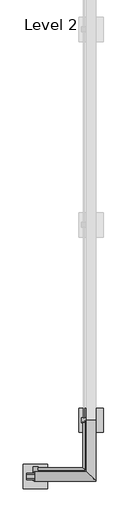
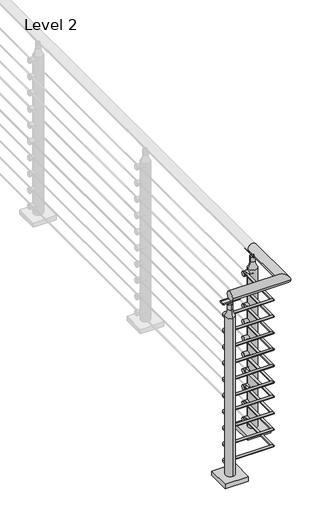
# One storey, part 4 of 21: 1 railing.
"""IFC4 building model written with IfcOpenShell, lengths in millimetres."""

from ifc_helpers import new_model, si_unit, point, frame, frame_2d, origin, place, context, project, spatial, polyline, circle_curve, ellipse_curve, trimmed, segment, composite_curve, outline, extrude, element, save
from ifc_brep_helpers import plane_surface, cylinder_surface, revolved_surface, advanced_brep

model = new_model("IFC4")

# Units and contexts
model_context = context("Model", 3, world=origin())
ifc_project = project(units=[si_unit("LENGTHUNIT", "METRE", prefix="MILLI")], contexts=[model_context])

# Site, building, storey
site = spatial("IfcSite", under=ifc_project)
building = spatial("IfcBuilding", under=site)
storey = spatial("IfcBuildingStorey", under=building, Name="Level 2", Elevation=3048.0)

# Railing
placement = place(None, origin())
element("IfcRailing", 1, ObjectType="VIVA-CIRCA-Multiline-Cable-Floor Mount-Corner", at=placement, inside=storey, context=model_context, shape_type="SolidModel", body=[
    advanced_brep(
    [(20523.0295521, -68730.3034511, 4102.1), (20523.0295521, -68679.5034511, 4102.1), (20840.5295521, -68730.3034511, 4102.1), (20789.7295521, -68679.5034511, 4102.1), (20840.5295521, -68412.8034511, 4102.1), (20789.7295521, -68412.8034511, 4102.1)],
    [
        (0, 1, circle_curve(frame((20523.0295521, -68704.9034511, 4102.1), z_axis=(-1.0, 0.0, 0.0), x_axis=(0.0, 1.0, 0.0)), 25.4)),
        (1, 0, circle_curve(frame((20523.0295521, -68704.9034511, 4102.1), z_axis=(-1.0, 0.0, 0.0), x_axis=(0.0, 1.0, 0.0)), 25.4)),
        (0, 2),
        (2, 3, ellipse_curve(frame((20815.1295521, -68704.9034511, 4102.1), z_axis=(-0.7071067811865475, -0.7071067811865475, 0.0), x_axis=(-0.7071067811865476, 0.7071067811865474, 0.0)), 35.9210245, 25.4)),
        (3, 1),
        (3, 2, ellipse_curve(frame((20815.1295521, -68704.9034511, 4102.1), z_axis=(-0.7071067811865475, -0.7071067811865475, 0.0), x_axis=(-0.7071067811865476, 0.7071067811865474, 0.0)), 35.9210245, 25.4)),
        (4, 5, circle_curve(frame((20815.1295521, -68412.8034511, 4102.1), z_axis=(0.0, 1.0, 0.0), x_axis=(-1.0, 0.0, 0.0)), 25.4)),
        (5, 4, circle_curve(frame((20815.1295521, -68412.8034511, 4102.1), z_axis=(0.0, 1.0, 0.0), x_axis=(-1.0, 0.0, 0.0)), 25.4)),
        (2, 4),
        (5, 3),
    ],
    [
        plane_surface(frame((20523.0295521, -68704.9034511, 4127.5), z_axis=(-1.0, 0.0, 0.0), x_axis=(0.0, 1.0, 0.0))),
        cylinder_surface(frame((20523.0295521, -68704.9034511, 4102.1), z_axis=(-1.0, 0.0, 0.0), x_axis=(0.0, 1.0, 0.0)), 25.4),
        plane_surface(frame((20815.1295521, -68412.8034511, 4127.5), z_axis=(0.0, 1.0, 0.0), x_axis=(0.0, 0.0, 1.0))),
        cylinder_surface(frame((20815.1295521, -68704.9034511, 4102.1), z_axis=(0.0, -1.0, 0.0), x_axis=(-1.0, 0.0, 0.0)), 25.4),
    ],
    [
        (0, [[1, 2]]),
        (1, [[-1, 3, 4, 5]]),
        (1, [[-2, -5, 6, -3]]),
        (2, [[7, 8]]),
        (3, [[-4, 9, -8, 10]]),
        (3, [[-6, -10, -7, -9]]),
    ],
),
    advanced_brep(
    [(20523.0295521, -68660.4534511, 3968.75), (20523.0295521, -68673.1534511, 3968.75), (20770.6795521, -68660.4534511, 3968.75), (20783.3795521, -68673.1534511, 3968.75), (20770.6795521, -68412.8034511, 3968.75), (20783.3795521, -68412.8034511, 3968.75)],
    [
        (0, 1, circle_curve(frame((20523.0295521, -68666.8034511, 3968.75), z_axis=(-1.0, 0.0, 0.0), x_axis=(0.0, -1.0, 0.0)), 6.35)),
        (1, 0, circle_curve(frame((20523.0295521, -68666.8034511, 3968.75), z_axis=(-1.0, 0.0, 0.0), x_axis=(0.0, -1.0, 0.0)), 6.35)),
        (0, 2),
        (2, 3, ellipse_curve(frame((20777.0295521, -68666.8034511, 3968.75), z_axis=(-0.7071067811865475, -0.7071067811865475, 0.0), x_axis=(-0.7071067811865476, 0.7071067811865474, 0.0)), 8.9802561, 6.35)),
        (3, 1),
        (3, 2, ellipse_curve(frame((20777.0295521, -68666.8034511, 3968.75), z_axis=(-0.7071067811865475, -0.7071067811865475, 0.0), x_axis=(-0.7071067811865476, 0.7071067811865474, 0.0)), 8.9802561, 6.35)),
        (4, 5, circle_curve(frame((20777.0295521, -68412.8034511, 3968.75), z_axis=(0.0, 1.0, 0.0), x_axis=(1.0, 0.0, 0.0)), 6.35)),
        (5, 4, circle_curve(frame((20777.0295521, -68412.8034511, 3968.75), z_axis=(0.0, 1.0, 0.0), x_axis=(1.0, 0.0, 0.0)), 6.35)),
        (2, 4),
        (5, 3),
    ],
    [
        plane_surface(frame((20523.0295521, -68666.8034511, 3975.1), z_axis=(-1.0, 0.0, 0.0), x_axis=(0.0, 1.0, 0.0))),
        cylinder_surface(frame((20523.0295521, -68666.8034511, 3968.75), z_axis=(-1.0, 0.0, 0.0), x_axis=(0.0, -1.0, 0.0)), 6.35),
        plane_surface(frame((20777.0295521, -68412.8034511, 3975.1), z_axis=(0.0, 1.0, 0.0), x_axis=(0.0, 0.0, 1.0))),
        cylinder_surface(frame((20777.0295521, -68666.8034511, 3968.75), z_axis=(0.0, -1.0, 0.0), x_axis=(1.0, 0.0, 0.0)), 6.35),
    ],
    [
        (0, [[1, 2]]),
        (1, [[-1, 3, 4, 5]]),
        (1, [[-2, -5, 6, -3]]),
        (2, [[7, 8]]),
        (3, [[-4, 9, -8, 10]]),
        (3, [[-6, -10, -7, -9]]),
    ],
),
    advanced_brep(
    [(20523.0295521, -68660.4534511, 3873.5), (20523.0295521, -68673.1534511, 3873.5), (20770.6795521, -68660.4534511, 3873.5), (20783.3795521, -68673.1534511, 3873.5), (20770.6795521, -68412.8034511, 3873.5), (20783.3795521, -68412.8034511, 3873.5)],
    [
        (0, 1, circle_curve(frame((20523.0295521, -68666.8034511, 3873.5), z_axis=(-1.0, 0.0, 0.0), x_axis=(0.0, -1.0, 0.0)), 6.35)),
        (1, 0, circle_curve(frame((20523.0295521, -68666.8034511, 3873.5), z_axis=(-1.0, 0.0, 0.0), x_axis=(0.0, -1.0, 0.0)), 6.35)),
        (0, 2),
        (2, 3, ellipse_curve(frame((20777.0295521, -68666.8034511, 3873.5), z_axis=(-0.7071067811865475, -0.7071067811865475, 0.0), x_axis=(-0.7071067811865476, 0.7071067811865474, 0.0)), 8.9802561, 6.35)),
        (3, 1),
        (3, 2, ellipse_curve(frame((20777.0295521, -68666.8034511, 3873.5), z_axis=(-0.7071067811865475, -0.7071067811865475, 0.0), x_axis=(-0.7071067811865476, 0.7071067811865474, 0.0)), 8.9802561, 6.35)),
        (4, 5, circle_curve(frame((20777.0295521, -68412.8034511, 3873.5), z_axis=(0.0, 1.0, 0.0), x_axis=(1.0, 0.0, 0.0)), 6.35)),
        (5, 4, circle_curve(frame((20777.0295521, -68412.8034511, 3873.5), z_axis=(0.0, 1.0, 0.0), x_axis=(1.0, 0.0, 0.0)), 6.35)),
        (2, 4),
        (5, 3),
    ],
    [
        plane_surface(frame((20523.0295521, -68666.8034511, 3879.85), z_axis=(-1.0, 0.0, 0.0), x_axis=(0.0, 1.0, 0.0))),
        cylinder_surface(frame((20523.0295521, -68666.8034511, 3873.5), z_axis=(-1.0, 0.0, 0.0), x_axis=(0.0, -1.0, 0.0)), 6.35),
        plane_surface(frame((20777.0295521, -68412.8034511, 3879.85), z_axis=(0.0, 1.0, 0.0), x_axis=(0.0, 0.0, 1.0))),
        cylinder_surface(frame((20777.0295521, -68666.8034511, 3873.5), z_axis=(0.0, -1.0, 0.0), x_axis=(1.0, 0.0, 0.0)), 6.35),
    ],
    [
        (0, [[1, 2]]),
        (1, [[-1, 3, 4, 5]]),
        (1, [[-2, -5, 6, -3]]),
        (2, [[7, 8]]),
        (3, [[-4, 9, -8, 10]]),
        (3, [[-6, -10, -7, -9]]),
    ],
),
    advanced_brep(
    [(20523.0295521, -68660.4534511, 3778.25), (20523.0295521, -68673.1534511, 3778.25), (20770.6795521, -68660.4534511, 3778.25), (20783.3795521, -68673.1534511, 3778.25), (20770.6795521, -68412.8034511, 3778.25), (20783.3795521, -68412.8034511, 3778.25)],
    [
        (0, 1, circle_curve(frame((20523.0295521, -68666.8034511, 3778.25), z_axis=(-1.0, 0.0, 0.0), x_axis=(0.0, -1.0, 0.0)), 6.35)),
        (1, 0, circle_curve(frame((20523.0295521, -68666.8034511, 3778.25), z_axis=(-1.0, 0.0, 0.0), x_axis=(0.0, -1.0, 0.0)), 6.35)),
        (0, 2),
        (2, 3, ellipse_curve(frame((20777.0295521, -68666.8034511, 3778.25), z_axis=(-0.7071067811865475, -0.7071067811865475, 0.0), x_axis=(-0.7071067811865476, 0.7071067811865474, 0.0)), 8.9802561, 6.35)),
        (3, 1),
        (3, 2, ellipse_curve(frame((20777.0295521, -68666.8034511, 3778.25), z_axis=(-0.7071067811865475, -0.7071067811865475, 0.0), x_axis=(-0.7071067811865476, 0.7071067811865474, 0.0)), 8.9802561, 6.35)),
        (4, 5, circle_curve(frame((20777.0295521, -68412.8034511, 3778.25), z_axis=(0.0, 1.0, 0.0), x_axis=(1.0, 0.0, 0.0)), 6.35)),
        (5, 4, circle_curve(frame((20777.0295521, -68412.8034511, 3778.25), z_axis=(0.0, 1.0, 0.0), x_axis=(1.0, 0.0, 0.0)), 6.35)),
        (2, 4),
        (5, 3),
    ],
    [
        plane_surface(frame((20523.0295521, -68666.8034511, 3784.6), z_axis=(-1.0, 0.0, 0.0), x_axis=(0.0, 1.0, 0.0))),
        cylinder_surface(frame((20523.0295521, -68666.8034511, 3778.25), z_axis=(-1.0, 0.0, 0.0), x_axis=(0.0, -1.0, 0.0)), 6.35),
        plane_surface(frame((20777.0295521, -68412.8034511, 3784.6), z_axis=(0.0, 1.0, 0.0), x_axis=(0.0, 0.0, 1.0))),
        cylinder_surface(frame((20777.0295521, -68666.8034511, 3778.25), z_axis=(0.0, -1.0, 0.0), x_axis=(1.0, 0.0, 0.0)), 6.35),
    ],
    [
        (0, [[1, 2]]),
        (1, [[-1, 3, 4, 5]]),
        (1, [[-2, -5, 6, -3]]),
        (2, [[7, 8]]),
        (3, [[-4, 9, -8, 10]]),
        (3, [[-6, -10, -7, -9]]),
    ],
),
    advanced_brep(
    [(20523.0295521, -68660.4534511, 3683.0), (20523.0295521, -68673.1534511, 3683.0), (20770.6795521, -68660.4534511, 3683.0), (20783.3795521, -68673.1534511, 3683.0), (20770.6795521, -68412.8034511, 3683.0), (20783.3795521, -68412.8034511, 3683.0)],
    [
        (0, 1, circle_curve(frame((20523.0295521, -68666.8034511, 3683.0), z_axis=(-1.0, 0.0, 0.0), x_axis=(0.0, -1.0, 0.0)), 6.35)),
        (1, 0, circle_curve(frame((20523.0295521, -68666.8034511, 3683.0), z_axis=(-1.0, 0.0, 0.0), x_axis=(0.0, -1.0, 0.0)), 6.35)),
        (0, 2),
        (2, 3, ellipse_curve(frame((20777.0295521, -68666.8034511, 3683.0), z_axis=(-0.7071067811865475, -0.7071067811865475, 0.0), x_axis=(-0.7071067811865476, 0.7071067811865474, 0.0)), 8.9802561, 6.35)),
        (3, 1),
        (3, 2, ellipse_curve(frame((20777.0295521, -68666.8034511, 3683.0), z_axis=(-0.7071067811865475, -0.7071067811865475, 0.0), x_axis=(-0.7071067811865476, 0.7071067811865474, 0.0)), 8.9802561, 6.35)),
        (4, 5, circle_curve(frame((20777.0295521, -68412.8034511, 3683.0), z_axis=(0.0, 1.0, 0.0), x_axis=(1.0, 0.0, 0.0)), 6.35)),
        (5, 4, circle_curve(frame((20777.0295521, -68412.8034511, 3683.0), z_axis=(0.0, 1.0, 0.0), x_axis=(1.0, 0.0, 0.0)), 6.35)),
        (2, 4),
        (5, 3),
    ],
    [
        plane_surface(frame((20523.0295521, -68666.8034511, 3689.35), z_axis=(-1.0, 0.0, 0.0), x_axis=(0.0, 1.0, 0.0))),
        cylinder_surface(frame((20523.0295521, -68666.8034511, 3683.0), z_axis=(-1.0, 0.0, 0.0), x_axis=(0.0, -1.0, 0.0)), 6.35),
        plane_surface(frame((20777.0295521, -68412.8034511, 3689.35), z_axis=(0.0, 1.0, 0.0), x_axis=(0.0, 0.0, 1.0))),
        cylinder_surface(frame((20777.0295521, -68666.8034511, 3683.0), z_axis=(0.0, -1.0, 0.0), x_axis=(1.0, 0.0, 0.0)), 6.35),
    ],
    [
        (0, [[1, 2]]),
        (1, [[-1, 3, 4, 5]]),
        (1, [[-2, -5, 6, -3]]),
        (2, [[7, 8]]),
        (3, [[-4, 9, -8, 10]]),
        (3, [[-6, -10, -7, -9]]),
    ],
),
    advanced_brep(
    [(20523.0295521, -68660.4534511, 3587.75), (20523.0295521, -68673.1534511, 3587.75), (20770.6795521, -68660.4534511, 3587.75), (20783.3795521, -68673.1534511, 3587.75), (20770.6795521, -68412.8034511, 3587.75), (20783.3795521, -68412.8034511, 3587.75)],
    [
        (0, 1, circle_curve(frame((20523.0295521, -68666.8034511, 3587.75), z_axis=(-1.0, 0.0, 0.0), x_axis=(0.0, -1.0, 0.0)), 6.35)),
        (1, 0, circle_curve(frame((20523.0295521, -68666.8034511, 3587.75), z_axis=(-1.0, 0.0, 0.0), x_axis=(0.0, -1.0, 0.0)), 6.35)),
        (0, 2),
        (2, 3, ellipse_curve(frame((20777.0295521, -68666.8034511, 3587.75), z_axis=(-0.7071067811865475, -0.7071067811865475, 0.0), x_axis=(-0.7071067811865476, 0.7071067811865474, 0.0)), 8.9802561, 6.35)),
        (3, 1),
        (3, 2, ellipse_curve(frame((20777.0295521, -68666.8034511, 3587.75), z_axis=(-0.7071067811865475, -0.7071067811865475, 0.0), x_axis=(-0.7071067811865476, 0.7071067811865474, 0.0)), 8.9802561, 6.35)),
        (4, 5, circle_curve(frame((20777.0295521, -68412.8034511, 3587.75), z_axis=(0.0, 1.0, 0.0), x_axis=(1.0, 0.0, 0.0)), 6.35)),
        (5, 4, circle_curve(frame((20777.0295521, -68412.8034511, 3587.75), z_axis=(0.0, 1.0, 0.0), x_axis=(1.0, 0.0, 0.0)), 6.35)),
        (2, 4),
        (5, 3),
    ],
    [
        plane_surface(frame((20523.0295521, -68666.8034511, 3594.1), z_axis=(-1.0, 0.0, 0.0), x_axis=(0.0, 1.0, 0.0))),
        cylinder_surface(frame((20523.0295521, -68666.8034511, 3587.75), z_axis=(-1.0, 0.0, 0.0), x_axis=(0.0, -1.0, 0.0)), 6.35),
        plane_surface(frame((20777.0295521, -68412.8034511, 3594.1), z_axis=(0.0, 1.0, 0.0), x_axis=(0.0, 0.0, 1.0))),
        cylinder_surface(frame((20777.0295521, -68666.8034511, 3587.75), z_axis=(0.0, -1.0, 0.0), x_axis=(1.0, 0.0, 0.0)), 6.35),
    ],
    [
        (0, [[1, 2]]),
        (1, [[-1, 3, 4, 5]]),
        (1, [[-2, -5, 6, -3]]),
        (2, [[7, 8]]),
        (3, [[-4, 9, -8, 10]]),
        (3, [[-6, -10, -7, -9]]),
    ],
),
    advanced_brep(
    [(20523.0295521, -68660.4534511, 3492.5), (20523.0295521, -68673.1534511, 3492.5), (20770.6795521, -68660.4534511, 3492.5), (20783.3795521, -68673.1534511, 3492.5), (20770.6795521, -68412.8034511, 3492.5), (20783.3795521, -68412.8034511, 3492.5)],
    [
        (0, 1, circle_curve(frame((20523.0295521, -68666.8034511, 3492.5), z_axis=(-1.0, 0.0, 0.0), x_axis=(0.0, -1.0, 0.0)), 6.35)),
        (1, 0, circle_curve(frame((20523.0295521, -68666.8034511, 3492.5), z_axis=(-1.0, 0.0, 0.0), x_axis=(0.0, -1.0, 0.0)), 6.35)),
        (0, 2),
        (2, 3, ellipse_curve(frame((20777.0295521, -68666.8034511, 3492.5), z_axis=(-0.7071067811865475, -0.7071067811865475, 0.0), x_axis=(-0.7071067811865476, 0.7071067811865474, 0.0)), 8.9802561, 6.35)),
        (3, 1),
        (3, 2, ellipse_curve(frame((20777.0295521, -68666.8034511, 3492.5), z_axis=(-0.7071067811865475, -0.7071067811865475, 0.0), x_axis=(-0.7071067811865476, 0.7071067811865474, 0.0)), 8.9802561, 6.35)),
        (4, 5, circle_curve(frame((20777.0295521, -68412.8034511, 3492.5), z_axis=(0.0, 1.0, 0.0), x_axis=(1.0, 0.0, 0.0)), 6.35)),
        (5, 4, circle_curve(frame((20777.0295521, -68412.8034511, 3492.5), z_axis=(0.0, 1.0, 0.0), x_axis=(1.0, 0.0, 0.0)), 6.35)),
        (2, 4),
        (5, 3),
    ],
    [
        plane_surface(frame((20523.0295521, -68666.8034511, 3498.85), z_axis=(-1.0, 0.0, 0.0), x_axis=(0.0, 1.0, 0.0))),
        cylinder_surface(frame((20523.0295521, -68666.8034511, 3492.5), z_axis=(-1.0, 0.0, 0.0), x_axis=(0.0, -1.0, 0.0)), 6.35),
        plane_surface(frame((20777.0295521, -68412.8034511, 3498.85), z_axis=(0.0, 1.0, 0.0), x_axis=(0.0, 0.0, 1.0))),
        cylinder_surface(frame((20777.0295521, -68666.8034511, 3492.5), z_axis=(0.0, -1.0, 0.0), x_axis=(1.0, 0.0, 0.0)), 6.35),
    ],
    [
        (0, [[1, 2]]),
        (1, [[-1, 3, 4, 5]]),
        (1, [[-2, -5, 6, -3]]),
        (2, [[7, 8]]),
        (3, [[-4, 9, -8, 10]]),
        (3, [[-6, -10, -7, -9]]),
    ],
),
    advanced_brep(
    [(20523.0295521, -68660.4534511, 3409.95), (20523.0295521, -68673.1534511, 3409.95), (20770.6795521, -68660.4534511, 3409.95), (20783.3795521, -68673.1534511, 3409.95), (20770.6795521, -68412.8034511, 3409.95), (20783.3795521, -68412.8034511, 3409.95)],
    [
        (0, 1, circle_curve(frame((20523.0295521, -68666.8034511, 3409.95), z_axis=(-1.0, 0.0, 0.0), x_axis=(0.0, -1.0, 0.0)), 6.35)),
        (1, 0, circle_curve(frame((20523.0295521, -68666.8034511, 3409.95), z_axis=(-1.0, 0.0, 0.0), x_axis=(0.0, -1.0, 0.0)), 6.35)),
        (0, 2),
        (2, 3, ellipse_curve(frame((20777.0295521, -68666.8034511, 3409.95), z_axis=(-0.7071067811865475, -0.7071067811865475, 0.0), x_axis=(-0.7071067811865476, 0.7071067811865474, 0.0)), 8.9802561, 6.35)),
        (3, 1),
        (3, 2, ellipse_curve(frame((20777.0295521, -68666.8034511, 3409.95), z_axis=(-0.7071067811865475, -0.7071067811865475, 0.0), x_axis=(-0.7071067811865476, 0.7071067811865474, 0.0)), 8.9802561, 6.35)),
        (4, 5, circle_curve(frame((20777.0295521, -68412.8034511, 3409.95), z_axis=(0.0, 1.0, 0.0), x_axis=(1.0, 0.0, 0.0)), 6.35)),
        (5, 4, circle_curve(frame((20777.0295521, -68412.8034511, 3409.95), z_axis=(0.0, 1.0, 0.0), x_axis=(1.0, 0.0, 0.0)), 6.35)),
        (2, 4),
        (5, 3),
    ],
    [
        plane_surface(frame((20523.0295521, -68666.8034511, 3416.3), z_axis=(-1.0, 0.0, 0.0), x_axis=(0.0, 1.0, 0.0))),
        cylinder_surface(frame((20523.0295521, -68666.8034511, 3409.95), z_axis=(-1.0, 0.0, 0.0), x_axis=(0.0, -1.0, 0.0)), 6.35),
        plane_surface(frame((20777.0295521, -68412.8034511, 3416.3), z_axis=(0.0, 1.0, 0.0), x_axis=(0.0, 0.0, 1.0))),
        cylinder_surface(frame((20777.0295521, -68666.8034511, 3409.95), z_axis=(0.0, -1.0, 0.0), x_axis=(1.0, 0.0, 0.0)), 6.35),
    ],
    [
        (0, [[1, 2]]),
        (1, [[-1, 3, 4, 5]]),
        (1, [[-2, -5, 6, -3]]),
        (2, [[7, 8]]),
        (3, [[-4, 9, -8, 10]]),
        (3, [[-6, -10, -7, -9]]),
    ],
),
    advanced_brep(
    [(20523.0295521, -68660.4534511, 3314.7), (20523.0295521, -68673.1534511, 3314.7), (20770.6795521, -68660.4534511, 3314.7), (20783.3795521, -68673.1534511, 3314.7), (20770.6795521, -68412.8034511, 3314.7), (20783.3795521, -68412.8034511, 3314.7)],
    [
        (0, 1, circle_curve(frame((20523.0295521, -68666.8034511, 3314.7), z_axis=(-1.0, 0.0, 0.0), x_axis=(0.0, -1.0, 0.0)), 6.35)),
        (1, 0, circle_curve(frame((20523.0295521, -68666.8034511, 3314.7), z_axis=(-1.0, 0.0, 0.0), x_axis=(0.0, -1.0, 0.0)), 6.35)),
        (0, 2),
        (2, 3, ellipse_curve(frame((20777.0295521, -68666.8034511, 3314.7), z_axis=(-0.7071067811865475, -0.7071067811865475, 0.0), x_axis=(-0.7071067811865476, 0.7071067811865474, 0.0)), 8.9802561, 6.35)),
        (3, 1),
        (3, 2, ellipse_curve(frame((20777.0295521, -68666.8034511, 3314.7), z_axis=(-0.7071067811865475, -0.7071067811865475, 0.0), x_axis=(-0.7071067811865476, 0.7071067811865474, 0.0)), 8.9802561, 6.35)),
        (4, 5, circle_curve(frame((20777.0295521, -68412.8034511, 3314.7), z_axis=(0.0, 1.0, 0.0), x_axis=(1.0, 0.0, 0.0)), 6.35)),
        (5, 4, circle_curve(frame((20777.0295521, -68412.8034511, 3314.7), z_axis=(0.0, 1.0, 0.0), x_axis=(1.0, 0.0, 0.0)), 6.35)),
        (2, 4),
        (5, 3),
    ],
    [
        plane_surface(frame((20523.0295521, -68666.8034511, 3321.05), z_axis=(-1.0, 0.0, 0.0), x_axis=(0.0, 1.0, 0.0))),
        cylinder_surface(frame((20523.0295521, -68666.8034511, 3314.7), z_axis=(-1.0, 0.0, 0.0), x_axis=(0.0, -1.0, 0.0)), 6.35),
        plane_surface(frame((20777.0295521, -68412.8034511, 3321.05), z_axis=(0.0, 1.0, 0.0), x_axis=(0.0, 0.0, 1.0))),
        cylinder_surface(frame((20777.0295521, -68666.8034511, 3314.7), z_axis=(0.0, -1.0, 0.0), x_axis=(1.0, 0.0, 0.0)), 6.35),
    ],
    [
        (0, [[1, 2]]),
        (1, [[-1, 3, 4, 5]]),
        (1, [[-2, -5, 6, -3]]),
        (2, [[7, 8]]),
        (3, [[-4, 9, -8, 10]]),
        (3, [[-6, -10, -7, -9]]),
    ],
),
    advanced_brep(
    [(20523.0295521, -68660.4534511, 3219.45), (20523.0295521, -68673.1534511, 3219.45), (20770.6795521, -68660.4534511, 3219.45), (20783.3795521, -68673.1534511, 3219.45), (20770.6795521, -68412.8034511, 3219.45), (20783.3795521, -68412.8034511, 3219.45)],
    [
        (0, 1, circle_curve(frame((20523.0295521, -68666.8034511, 3219.45), z_axis=(-1.0, 0.0, 0.0), x_axis=(0.0, -1.0, 0.0)), 6.35)),
        (1, 0, circle_curve(frame((20523.0295521, -68666.8034511, 3219.45), z_axis=(-1.0, 0.0, 0.0), x_axis=(0.0, -1.0, 0.0)), 6.35)),
        (0, 2),
        (2, 3, ellipse_curve(frame((20777.0295521, -68666.8034511, 3219.45), z_axis=(-0.7071067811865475, -0.7071067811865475, 0.0), x_axis=(-0.7071067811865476, 0.7071067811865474, 0.0)), 8.9802561, 6.35)),
        (3, 1),
        (3, 2, ellipse_curve(frame((20777.0295521, -68666.8034511, 3219.45), z_axis=(-0.7071067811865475, -0.7071067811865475, 0.0), x_axis=(-0.7071067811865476, 0.7071067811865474, 0.0)), 8.9802561, 6.35)),
        (4, 5, circle_curve(frame((20777.0295521, -68412.8034511, 3219.45), z_axis=(0.0, 1.0, 0.0), x_axis=(1.0, 0.0, 0.0)), 6.35)),
        (5, 4, circle_curve(frame((20777.0295521, -68412.8034511, 3219.45), z_axis=(0.0, 1.0, 0.0), x_axis=(1.0, 0.0, 0.0)), 6.35)),
        (2, 4),
        (5, 3),
    ],
    [
        plane_surface(frame((20523.0295521, -68666.8034511, 3225.8), z_axis=(-1.0, 0.0, 0.0), x_axis=(0.0, 1.0, 0.0))),
        cylinder_surface(frame((20523.0295521, -68666.8034511, 3219.45), z_axis=(-1.0, 0.0, 0.0), x_axis=(0.0, -1.0, 0.0)), 6.35),
        plane_surface(frame((20777.0295521, -68412.8034511, 3225.8), z_axis=(0.0, 1.0, 0.0), x_axis=(0.0, 0.0, 1.0))),
        cylinder_surface(frame((20777.0295521, -68666.8034511, 3219.45), z_axis=(0.0, -1.0, 0.0), x_axis=(1.0, 0.0, 0.0)), 6.35),
    ],
    [
        (0, [[1, 2]]),
        (1, [[-1, 3, 4, 5]]),
        (1, [[-2, -5, 6, -3]]),
        (2, [[7, 8]]),
        (3, [[-4, 9, -8, 10]]),
        (3, [[-6, -10, -7, -9]]),
    ],
),
    advanced_brep(
    [(20523.0295521, -68660.4534511, 3124.2), (20523.0295521, -68673.1534511, 3124.2), (20770.6795521, -68660.4534511, 3124.2), (20783.3795521, -68673.1534511, 3124.2), (20770.6795521, -68412.8034511, 3124.2), (20783.3795521, -68412.8034511, 3124.2)],
    [
        (0, 1, circle_curve(frame((20523.0295521, -68666.8034511, 3124.2), z_axis=(-1.0, 0.0, 0.0), x_axis=(0.0, -1.0, 0.0)), 6.35)),
        (1, 0, circle_curve(frame((20523.0295521, -68666.8034511, 3124.2), z_axis=(-1.0, 0.0, 0.0), x_axis=(0.0, -1.0, 0.0)), 6.35)),
        (0, 2),
        (2, 3, ellipse_curve(frame((20777.0295521, -68666.8034511, 3124.2), z_axis=(-0.7071067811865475, -0.7071067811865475, 0.0), x_axis=(-0.7071067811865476, 0.7071067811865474, 0.0)), 8.9802561, 6.35)),
        (3, 1),
        (3, 2, ellipse_curve(frame((20777.0295521, -68666.8034511, 3124.2), z_axis=(-0.7071067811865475, -0.7071067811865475, 0.0), x_axis=(-0.7071067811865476, 0.7071067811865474, 0.0)), 8.9802561, 6.35)),
        (4, 5, circle_curve(frame((20777.0295521, -68412.8034511, 3124.2), z_axis=(0.0, 1.0, 0.0), x_axis=(1.0, 0.0, 0.0)), 6.35)),
        (5, 4, circle_curve(frame((20777.0295521, -68412.8034511, 3124.2), z_axis=(0.0, 1.0, 0.0), x_axis=(1.0, 0.0, 0.0)), 6.35)),
        (2, 4),
        (5, 3),
    ],
    [
        plane_surface(frame((20523.0295521, -68666.8034511, 3130.55), z_axis=(-1.0, 0.0, 0.0), x_axis=(0.0, 1.0, 0.0))),
        cylinder_surface(frame((20523.0295521, -68666.8034511, 3124.2), z_axis=(-1.0, 0.0, 0.0), x_axis=(0.0, -1.0, 0.0)), 6.35),
        plane_surface(frame((20777.0295521, -68412.8034511, 3130.55), z_axis=(0.0, 1.0, 0.0), x_axis=(0.0, 0.0, 1.0))),
        cylinder_surface(frame((20777.0295521, -68666.8034511, 3124.2), z_axis=(0.0, -1.0, 0.0), x_axis=(1.0, 0.0, 0.0)), 6.35),
    ],
    [
        (0, [[1, 2]]),
        (1, [[-1, 3, 4, 5]]),
        (1, [[-2, -5, 6, -3]]),
        (2, [[7, 8]]),
        (3, [[-4, 9, -8, 10]]),
        (3, [[-6, -10, -7, -9]]),
    ],
),
    extrude(outline(composite_curve([segment(trimmed(circle_curve(frame_2d((-68412.0097011, 3124.2)), 12.666458), [point((-68399.3432432, 3124.2))], [point((-68424.6761591, 3124.2))], False, "CARTESIAN"), True, "CONTINUOUS"), segment(trimmed(circle_curve(frame_2d((-68412.0097011, 3124.2)), 12.666458), [point((-68424.6761591, 3124.2))], [point((-68399.3432432, 3124.2))], False, "CARTESIAN"), True, "CONTINUOUS")], self_intersect=False)), frame((20764.3295521, 0.0, 0.0), z_axis=(1.0, 0.0, 0.0), x_axis=(0.0, 1.0, 0.0)), (0.0, 0.0, 1.0), 50.8),
    extrude(outline(composite_curve([segment(trimmed(circle_curve(frame_2d((-68412.0097011, 3218.0388889)), 12.666458), [point((-68399.3432432, 3218.0388889))], [point((-68424.6761591, 3218.0388889))], False, "CARTESIAN"), True, "CONTINUOUS"), segment(trimmed(circle_curve(frame_2d((-68412.0097011, 3218.0388889)), 12.666458), [point((-68424.6761591, 3218.0388889))], [point((-68399.3432432, 3218.0388889))], False, "CARTESIAN"), True, "CONTINUOUS")], self_intersect=False)), frame((20764.3295521, 0.0, 0.0), z_axis=(1.0, 0.0, 0.0), x_axis=(0.0, 1.0, 0.0)), (0.0, 0.0, 1.0), 50.8),
    extrude(outline(composite_curve([segment(trimmed(circle_curve(frame_2d((-68412.0097011, 3311.8777778)), 12.666458), [point((-68399.3432432, 3311.8777778))], [point((-68424.6761591, 3311.8777778))], False, "CARTESIAN"), True, "CONTINUOUS"), segment(trimmed(circle_curve(frame_2d((-68412.0097011, 3311.8777778)), 12.666458), [point((-68424.6761591, 3311.8777778))], [point((-68399.3432432, 3311.8777778))], False, "CARTESIAN"), True, "CONTINUOUS")], self_intersect=False)), frame((20764.3295521, 0.0, 0.0), z_axis=(1.0, 0.0, 0.0), x_axis=(0.0, 1.0, 0.0)), (0.0, 0.0, 1.0), 50.8),
    extrude(outline(composite_curve([segment(trimmed(circle_curve(frame_2d((-68412.0097011, 3405.7166667)), 12.666458), [point((-68399.3432432, 3405.7166667))], [point((-68424.6761591, 3405.7166667))], False, "CARTESIAN"), True, "CONTINUOUS"), segment(trimmed(circle_curve(frame_2d((-68412.0097011, 3405.7166667)), 12.666458), [point((-68424.6761591, 3405.7166667))], [point((-68399.3432432, 3405.7166667))], False, "CARTESIAN"), True, "CONTINUOUS")], self_intersect=False)), frame((20764.3295521, 0.0, 0.0), z_axis=(1.0, 0.0, 0.0), x_axis=(0.0, 1.0, 0.0)), (0.0, 0.0, 1.0), 50.8),
    extrude(outline(composite_curve([segment(trimmed(circle_curve(frame_2d((-68412.0097011, 3499.5555556)), 12.666458), [point((-68399.3432432, 3499.5555556))], [point((-68424.6761591, 3499.5555556))], False, "CARTESIAN"), True, "CONTINUOUS"), segment(trimmed(circle_curve(frame_2d((-68412.0097011, 3499.5555556)), 12.666458), [point((-68424.6761591, 3499.5555556))], [point((-68399.3432432, 3499.5555556))], False, "CARTESIAN"), True, "CONTINUOUS")], self_intersect=False)), frame((20764.3295521, 0.0, 0.0), z_axis=(1.0, 0.0, 0.0), x_axis=(0.0, 1.0, 0.0)), (0.0, 0.0, 1.0), 50.8),
    extrude(outline(composite_curve([segment(trimmed(circle_curve(frame_2d((-68412.0097011, 3593.3944444)), 12.666458), [point((-68399.3432432, 3593.3944444))], [point((-68424.6761591, 3593.3944444))], False, "CARTESIAN"), True, "CONTINUOUS"), segment(trimmed(circle_curve(frame_2d((-68412.0097011, 3593.3944444)), 12.666458), [point((-68424.6761591, 3593.3944444))], [point((-68399.3432432, 3593.3944444))], False, "CARTESIAN"), True, "CONTINUOUS")], self_intersect=False)), frame((20764.3295521, 0.0, 0.0), z_axis=(1.0, 0.0, 0.0), x_axis=(0.0, 1.0, 0.0)), (0.0, 0.0, 1.0), 50.8),
    extrude(outline(composite_curve([segment(trimmed(circle_curve(frame_2d((-68412.0097011, 3687.2333333)), 12.666458), [point((-68399.3432432, 3687.2333333))], [point((-68424.6761591, 3687.2333333))], False, "CARTESIAN"), True, "CONTINUOUS"), segment(trimmed(circle_curve(frame_2d((-68412.0097011, 3687.2333333)), 12.666458), [point((-68424.6761591, 3687.2333333))], [point((-68399.3432432, 3687.2333333))], False, "CARTESIAN"), True, "CONTINUOUS")], self_intersect=False)), frame((20764.3295521, 0.0, 0.0), z_axis=(1.0, 0.0, 0.0), x_axis=(0.0, 1.0, 0.0)), (0.0, 0.0, 1.0), 50.8),
    extrude(outline(composite_curve([segment(trimmed(circle_curve(frame_2d((-68412.0097011, 3781.0722222)), 12.666458), [point((-68399.3432432, 3781.0722222))], [point((-68424.6761591, 3781.0722222))], False, "CARTESIAN"), True, "CONTINUOUS"), segment(trimmed(circle_curve(frame_2d((-68412.0097011, 3781.0722222)), 12.666458), [point((-68424.6761591, 3781.0722222))], [point((-68399.3432432, 3781.0722222))], False, "CARTESIAN"), True, "CONTINUOUS")], self_intersect=False)), frame((20764.3295521, 0.0, 0.0), z_axis=(1.0, 0.0, 0.0), x_axis=(0.0, 1.0, 0.0)), (0.0, 0.0, 1.0), 50.8),
    extrude(outline(composite_curve([segment(trimmed(circle_curve(frame_2d((-68412.0097011, 3968.75)), 12.666458), [point((-68399.3432432, 3968.75))], [point((-68424.6761591, 3968.75))], False, "CARTESIAN"), True, "CONTINUOUS"), segment(trimmed(circle_curve(frame_2d((-68412.0097011, 3968.75)), 12.666458), [point((-68424.6761591, 3968.75))], [point((-68399.3432432, 3968.75))], False, "CARTESIAN"), True, "CONTINUOUS")], self_intersect=False)), frame((20764.3295521, 0.0, 0.0), z_axis=(1.0, 0.0, 0.0), x_axis=(0.0, 1.0, 0.0)), (0.0, 0.0, 1.0), 50.8),
    extrude(outline(composite_curve([segment(trimmed(circle_curve(frame_2d((-68412.0097011, 3874.9111111)), 12.666458), [point((-68399.3432432, 3874.9111111))], [point((-68424.6761591, 3874.9111111))], False, "CARTESIAN"), True, "CONTINUOUS"), segment(trimmed(circle_curve(frame_2d((-68412.0097011, 3874.9111111)), 12.666458), [point((-68424.6761591, 3874.9111111))], [point((-68399.3432432, 3874.9111111))], False, "CARTESIAN"), True, "CONTINUOUS")], self_intersect=False)), frame((20764.3295521, 0.0, 0.0), z_axis=(1.0, 0.0, 0.0), x_axis=(0.0, 1.0, 0.0)), (0.0, 0.0, 1.0), 50.8),
    extrude(outline(composite_curve([segment(trimmed(circle_curve(frame_2d((4103.4254922, 20815.0328237)), 25.4345159), [point((4081.3106679, 20827.5966266))], [point((4081.2157471, 20802.63759))], True, "CARTESIAN"), True, "CONTINUOUS"), segment(trimmed(circle_curve(frame_2d((4078.7132623, 20801.3929369)), 2.7949225), [point((4081.2157471, 20802.63759))], [point((4076.3406769, 20799.9156318))], False, "CARTESIAN"), True, "CONTINUOUS"), segment(trimmed(circle_curve(frame_2d((4104.1881188, 20815.1662868)), 31.75), [point((4076.3406769, 20799.9156318))], [point((4076.9214354, 20831.4325241))], False, "CARTESIAN"), True, "CONTINUOUS"), segment(trimmed(circle_curve(frame_2d((4078.7923545, 20829.1441843)), 2.9558141), [point((4076.9214354, 20831.4325241))], [point((4081.3106679, 20827.5966266))], False, "CARTESIAN"), True, "CONTINUOUS")], self_intersect=False)), frame((0.0, -68457.6439761, 0.0), z_axis=(0.0, 1.0, 0.0), x_axis=(0.0, 0.0, 1.0)), (0.0, 0.0, 1.0), 90.4748),
    advanced_brep(
    [(20812.5895521, -68385.3386612, 4072.6506908), (20812.5895521, -68399.7065761, 4058.282776), (20812.5895521, -68425.1065761, 4058.282776), (20812.5895521, -68439.474491, 4072.6506908), (20817.6695521, -68385.3386612, 4072.6506908), (20817.6695521, -68439.474491, 4072.6506908), (20817.6695521, -68425.1065761, 4058.282776), (20817.6695521, -68399.7065761, 4058.282776)],
    [
        (0, 1, circle_curve(frame((20812.5895521, -68385.3386612, 4058.282776), z_axis=(1.0, 0.0, 0.0), x_axis=(0.0, -1.0, 0.0)), 14.3679149)),
        (1, 2, circle_curve(frame((20812.5895521, -68412.4065761, 4058.282776), z_axis=(-1.0, 0.0, 0.0), x_axis=(0.0, -1.0, 0.0)), 12.7)),
        (2, 3, circle_curve(frame((20812.5895521, -68439.474491, 4058.282776), z_axis=(1.0, 0.0, 0.0), x_axis=(0.0, -1.0, 0.0)), 14.3679149)),
        (3, 0),
        (4, 5),
        (5, 6, circle_curve(frame((20817.6695521, -68439.474491, 4058.282776), z_axis=(-1.0, 0.0, 0.0), x_axis=(0.0, -1.0, 0.0)), 14.3679149)),
        (6, 7, circle_curve(frame((20817.6695521, -68412.4065761, 4058.282776), z_axis=(1.0, 0.0, 0.0), x_axis=(0.0, -1.0, 0.0)), 12.7)),
        (7, 4, circle_curve(frame((20817.6695521, -68385.3386612, 4058.282776), z_axis=(-1.0, 0.0, 0.0), x_axis=(0.0, -1.0, 0.0)), 14.3679149)),
        (0, 4),
        (7, 1),
        (6, 2),
        (5, 3),
    ],
    [
        plane_surface(frame((20812.5895521, -68399.7065761, 4058.282776), z_axis=(-1.0, 0.0, 0.0), x_axis=(0.0, 0.0, -1.0))),
        plane_surface(frame((20817.6695521, -68399.7065761, 4058.282776), z_axis=(1.0, 0.0, 0.0), x_axis=(0.0, 0.0, 1.0))),
        revolved_surface(polyline([(20817.6695521, -68399.7065761, 4058.282776), (20812.5895521, -68399.7065761, 4058.282776)]), (20817.6695521, -68385.3386612, 4058.282776), (1.0, 0.0, 0.0)),
        cylinder_surface(frame((20817.6695521, -68412.4065761, 4058.282776), z_axis=(-1.0, 0.0, 0.0), x_axis=(0.0, -1.0, 0.0)), 12.7),
        revolved_surface(polyline([(20817.6695521, -68453.8424059, 4058.282776), (20812.5895521, -68453.8424059, 4058.282776)]), (20817.6695521, -68439.474491, 4058.282776), (1.0, 0.0, 0.0)),
        plane_surface(frame((20812.5895521, -68439.474491, 4072.6506908), z_axis=(0.0, 0.0, 1.0), x_axis=(1.0, 0.0, 0.0))),
    ],
    [
        (0, [[1, 2, 3, 4]]),
        (1, [[5, 6, 7, 8]]),
        (2, [[-1, 9, -8, 10]]),
        (3, [[-2, -10, -7, 11]]),
        (4, [[-3, -11, -6, 12]]),
        (5, [[-4, -12, -5, -9]]),
    ],
),
    extrude(outline(polyline([(20878.6295521, -68475.9065761), (20751.6295521, -68475.9065761), (20751.6295521, -68348.9065761), (20878.6295521, -68348.9065761), (20878.6295521, -68475.9065761)])), frame((0.0, 0.0, 3048.0), z_axis=(0.0, 0.0, 1.0), x_axis=(1.0, 0.0, 0.0)), (0.0, 0.0, 1.0), 25.4),
    advanced_brep(
    [(20840.5289499, -68412.4065761, 3989.1347854), (20789.7301543, -68412.4065761, 3989.1347854), (20789.7301543, -68412.4065761, 3073.4), (20840.5289499, -68412.4065761, 3073.4), (20827.8675207, -68412.4065761, 4027.3486202), (20802.3915836, -68412.4065761, 4027.3486202), (20827.8675207, -68412.4065761, 4056.5779599), (20802.3915836, -68412.4065761, 4056.5779599), (20815.1295521, -68412.4065761, 4063.238668), (20815.1295521, -68412.4065761, 3073.4)],
    [
        (0, 1, circle_curve(frame((20815.1295521, -68412.4065761, 3989.1347854), z_axis=(0.0, 0.0, -1.0), x_axis=(-1.0, 0.0, 0.0)), 25.3993978)),
        (1, 2),
        (2, 3, circle_curve(frame((20815.1295521, -68412.4065761, 3073.4), z_axis=(0.0, 0.0, 1.0), x_axis=(-1.0, 0.0, 0.0)), 25.3993978)),
        (3, 0),
        (1, 0, circle_curve(frame((20815.1295521, -68412.4065761, 3989.1347854), z_axis=(0.0, 0.0, -1.0), x_axis=(-1.0, 0.0, 0.0)), 25.3993978)),
        (3, 2, circle_curve(frame((20815.1295521, -68412.4065761, 3073.4), z_axis=(0.0, 0.0, 1.0), x_axis=(-1.0, 0.0, 0.0)), 25.3993978)),
        (4, 5, circle_curve(frame((20815.1295521, -68412.4065761, 4027.3486202), z_axis=(0.0, 0.0, -1.0), x_axis=(-1.0, 0.0, 0.0)), 12.7379685)),
        (5, 1, circle_curve(frame((20738.3937153, -68412.4065761, 4027.3486202), z_axis=(0.0, 1.0, 0.0), x_axis=(-1.0, 0.0, 0.0)), 63.9978683)),
        (0, 4, circle_curve(frame((20891.865389, -68412.4065761, 4027.3486202), z_axis=(0.0, 1.0, 0.0), x_axis=(1.0, 0.0, 0.0)), 63.9978683)),
        (5, 4, circle_curve(frame((20815.1295521, -68412.4065761, 4027.3486202), z_axis=(0.0, 0.0, -1.0), x_axis=(-1.0, 0.0, 0.0)), 12.7379685)),
        (6, 7, circle_curve(frame((20815.1295521, -68412.4065761, 4056.5779599), z_axis=(0.0, 0.0, -1.0), x_axis=(-1.0, 0.0, 0.0)), 12.7379685)),
        (7, 5),
        (4, 6),
        (7, 6, circle_curve(frame((20815.1295521, -68412.4065761, 4056.5779599), z_axis=(0.0, 0.0, -1.0), x_axis=(-1.0, 0.0, 0.0)), 12.7379685)),
        (8, 7, circle_curve(frame((20815.1295521, -68412.4065761, 4047.7282394), z_axis=(0.0, -1.0, 0.0), x_axis=(-1.0, 0.0, 0.0)), 15.5104286)),
        (6, 8, circle_curve(frame((20815.1295521, -68412.4065761, 4047.7282394), z_axis=(0.0, -1.0, 0.0), x_axis=(1.0, 0.0, 0.0)), 15.5104286)),
        (2, 9),
        (9, 3),
    ],
    [
        cylinder_surface(frame((20815.1295521, -68412.4065761, 4152.9), z_axis=(0.0, 0.0, 1.0), x_axis=(-1.0, 0.0, 0.0)), 25.3993978),
        revolved_surface(trimmed(ellipse_curve(frame((20738.3937153, -68412.4065761, 4027.3486202), z_axis=(0.0, -1.0, 0.0), x_axis=(-1.0, 0.0, 0.0)), 63.9978683, 63.9978683), [point((20789.7301543, -68412.4065761, 3989.1347854))], [point((20802.3915836, -68412.4065761, 4027.3486202))], True, "CARTESIAN"), (20815.1295521, -68412.4065761, 4152.9), (0.0, 0.0, 1.0)),
        cylinder_surface(frame((20815.1295521, -68412.4065761, 4152.9), z_axis=(0.0, 0.0, 1.0), x_axis=(-1.0, 0.0, 0.0)), 12.7379685),
        revolved_surface(trimmed(ellipse_curve(frame((20815.1295521, -68412.4065761, 4047.7282394), z_axis=(0.0, 1.0, 0.0), x_axis=(-1.0, 0.0, 0.0)), 15.5104286, 15.5104286), [point((20802.3915836, -68412.4065761, 4056.5779599))], [point((20815.1295521, -68412.4065761, 4063.238668))], True, "CARTESIAN"), (20815.1295521, -68412.4065761, 4152.9), (0.0, 0.0, 1.0)),
        plane_surface(frame((20815.1295521, -68412.4065761, 3073.4), z_axis=(0.0, 0.0, -1.0), x_axis=(-1.0, 0.0, 0.0))),
    ],
    [
        (0, [[1, 2, 3, 4]]),
        (0, [[5, -4, 6, -2]]),
        (1, [[7, 8, -1, 9]]),
        (1, [[10, -9, -5, -8]]),
        (2, [[11, 12, -7, 13]]),
        (2, [[14, -13, -10, -12]]),
        (3, [[15, -11, 16]]),
        (3, [[-16, -14, -15]]),
        (4, [[-3, 17, 18]]),
        (4, [[-6, -18, -17]]),
    ],
),
    extrude(outline(composite_curve([segment(trimmed(circle_curve(frame_2d((3124.2, 20523.8233021)), 12.666458), [point((3124.2, 20536.4897601))], [point((3124.2, 20511.1568442))], False, "CARTESIAN"), True, "CONTINUOUS"), segment(trimmed(circle_curve(frame_2d((3124.2, 20523.8233021)), 12.666458), [point((3124.2, 20511.1568442))], [point((3124.2, 20536.4897601))], False, "CARTESIAN"), True, "CONTINUOUS")], self_intersect=False)), frame((0.0, -68704.9034511, 0.0), z_axis=(0.0, 1.0, 0.0), x_axis=(0.0, 0.0, 1.0)), (0.0, 0.0, 1.0), 50.8),
    extrude(outline(composite_curve([segment(trimmed(circle_curve(frame_2d((3218.0388889, 20523.8233021)), 12.666458), [point((3218.0388889, 20536.4897601))], [point((3218.0388889, 20511.1568442))], False, "CARTESIAN"), True, "CONTINUOUS"), segment(trimmed(circle_curve(frame_2d((3218.0388889, 20523.8233021)), 12.666458), [point((3218.0388889, 20511.1568442))], [point((3218.0388889, 20536.4897601))], False, "CARTESIAN"), True, "CONTINUOUS")], self_intersect=False)), frame((0.0, -68704.9034511, 0.0), z_axis=(0.0, 1.0, 0.0), x_axis=(0.0, 0.0, 1.0)), (0.0, 0.0, 1.0), 50.8),
    extrude(outline(composite_curve([segment(trimmed(circle_curve(frame_2d((3311.8777778, 20523.8233021)), 12.666458), [point((3311.8777778, 20536.4897601))], [point((3311.8777778, 20511.1568442))], False, "CARTESIAN"), True, "CONTINUOUS"), segment(trimmed(circle_curve(frame_2d((3311.8777778, 20523.8233021)), 12.666458), [point((3311.8777778, 20511.1568442))], [point((3311.8777778, 20536.4897601))], False, "CARTESIAN"), True, "CONTINUOUS")], self_intersect=False)), frame((0.0, -68704.9034511, 0.0), z_axis=(0.0, 1.0, 0.0), x_axis=(0.0, 0.0, 1.0)), (0.0, 0.0, 1.0), 50.8),
    extrude(outline(composite_curve([segment(trimmed(circle_curve(frame_2d((3405.7166667, 20523.8233021)), 12.666458), [point((3405.7166667, 20536.4897601))], [point((3405.7166667, 20511.1568442))], False, "CARTESIAN"), True, "CONTINUOUS"), segment(trimmed(circle_curve(frame_2d((3405.7166667, 20523.8233021)), 12.666458), [point((3405.7166667, 20511.1568442))], [point((3405.7166667, 20536.4897601))], False, "CARTESIAN"), True, "CONTINUOUS")], self_intersect=False)), frame((0.0, -68704.9034511, 0.0), z_axis=(0.0, 1.0, 0.0), x_axis=(0.0, 0.0, 1.0)), (0.0, 0.0, 1.0), 50.8),
    extrude(outline(composite_curve([segment(trimmed(circle_curve(frame_2d((3499.5555556, 20523.8233021)), 12.666458), [point((3499.5555556, 20536.4897601))], [point((3499.5555556, 20511.1568442))], False, "CARTESIAN"), True, "CONTINUOUS"), segment(trimmed(circle_curve(frame_2d((3499.5555556, 20523.8233021)), 12.666458), [point((3499.5555556, 20511.1568442))], [point((3499.5555556, 20536.4897601))], False, "CARTESIAN"), True, "CONTINUOUS")], self_intersect=False)), frame((0.0, -68704.9034511, 0.0), z_axis=(0.0, 1.0, 0.0), x_axis=(0.0, 0.0, 1.0)), (0.0, 0.0, 1.0), 50.8),
    extrude(outline(composite_curve([segment(trimmed(circle_curve(frame_2d((3593.3944444, 20523.8233021)), 12.666458), [point((3593.3944444, 20536.4897601))], [point((3593.3944444, 20511.1568442))], False, "CARTESIAN"), True, "CONTINUOUS"), segment(trimmed(circle_curve(frame_2d((3593.3944444, 20523.8233021)), 12.666458), [point((3593.3944444, 20511.1568442))], [point((3593.3944444, 20536.4897601))], False, "CARTESIAN"), True, "CONTINUOUS")], self_intersect=False)), frame((0.0, -68704.9034511, 0.0), z_axis=(0.0, 1.0, 0.0), x_axis=(0.0, 0.0, 1.0)), (0.0, 0.0, 1.0), 50.8),
    extrude(outline(composite_curve([segment(trimmed(circle_curve(frame_2d((3687.2333333, 20523.8233021)), 12.666458), [point((3687.2333333, 20536.4897601))], [point((3687.2333333, 20511.1568442))], False, "CARTESIAN"), True, "CONTINUOUS"), segment(trimmed(circle_curve(frame_2d((3687.2333333, 20523.8233021)), 12.666458), [point((3687.2333333, 20511.1568442))], [point((3687.2333333, 20536.4897601))], False, "CARTESIAN"), True, "CONTINUOUS")], self_intersect=False)), frame((0.0, -68704.9034511, 0.0), z_axis=(0.0, 1.0, 0.0), x_axis=(0.0, 0.0, 1.0)), (0.0, 0.0, 1.0), 50.8),
    extrude(outline(composite_curve([segment(trimmed(circle_curve(frame_2d((3781.0722222, 20523.8233021)), 12.666458), [point((3781.0722222, 20536.4897601))], [point((3781.0722222, 20511.1568442))], False, "CARTESIAN"), True, "CONTINUOUS"), segment(trimmed(circle_curve(frame_2d((3781.0722222, 20523.8233021)), 12.666458), [point((3781.0722222, 20511.1568442))], [point((3781.0722222, 20536.4897601))], False, "CARTESIAN"), True, "CONTINUOUS")], self_intersect=False)), frame((0.0, -68704.9034511, 0.0), z_axis=(0.0, 1.0, 0.0), x_axis=(0.0, 0.0, 1.0)), (0.0, 0.0, 1.0), 50.8),
    extrude(outline(composite_curve([segment(trimmed(circle_curve(frame_2d((3968.75, 20523.8233021)), 12.666458), [point((3968.75, 20536.4897601))], [point((3968.75, 20511.1568442))], False, "CARTESIAN"), True, "CONTINUOUS"), segment(trimmed(circle_curve(frame_2d((3968.75, 20523.8233021)), 12.666458), [point((3968.75, 20511.1568442))], [point((3968.75, 20536.4897601))], False, "CARTESIAN"), True, "CONTINUOUS")], self_intersect=False)), frame((0.0, -68704.9034511, 0.0), z_axis=(0.0, 1.0, 0.0), x_axis=(0.0, 0.0, 1.0)), (0.0, 0.0, 1.0), 50.8),
    extrude(outline(composite_curve([segment(trimmed(circle_curve(frame_2d((3874.9111111, 20523.8233021)), 12.666458), [point((3874.9111111, 20536.4897601))], [point((3874.9111111, 20511.1568442))], False, "CARTESIAN"), True, "CONTINUOUS"), segment(trimmed(circle_curve(frame_2d((3874.9111111, 20523.8233021)), 12.666458), [point((3874.9111111, 20511.1568442))], [point((3874.9111111, 20536.4897601))], False, "CARTESIAN"), True, "CONTINUOUS")], self_intersect=False)), frame((0.0, -68704.9034511, 0.0), z_axis=(0.0, 1.0, 0.0), x_axis=(0.0, 0.0, 1.0)), (0.0, 0.0, 1.0), 50.8),
    extrude(outline(composite_curve([segment(trimmed(circle_curve(frame_2d((-68704.8067227, 4103.4254922)), 25.4345159), [point((-68717.3705256, 4081.3106679))], [point((-68692.411489, 4081.2157471))], True, "CARTESIAN"), True, "CONTINUOUS"), segment(trimmed(circle_curve(frame_2d((-68691.1668359, 4078.7132623)), 2.7949225), [point((-68692.411489, 4081.2157471))], [point((-68689.6895308, 4076.3406769))], False, "CARTESIAN"), True, "CONTINUOUS"), segment(trimmed(circle_curve(frame_2d((-68704.9401858, 4104.1881188)), 31.75), [point((-68689.6895308, 4076.3406769))], [point((-68721.206423, 4076.9214354))], False, "CARTESIAN"), True, "CONTINUOUS"), segment(trimmed(circle_curve(frame_2d((-68718.9180833, 4078.7923545)), 2.9558141), [point((-68721.206423, 4076.9214354))], [point((-68717.3705256, 4081.3106679))], False, "CARTESIAN"), True, "CONTINUOUS")], self_intersect=False)), frame((20478.1890271, 0.0, 0.0), z_axis=(1.0, 0.0, 0.0), x_axis=(0.0, 1.0, 0.0)), (0.0, 0.0, 1.0), 90.4748),
    advanced_brep(
    [(20550.494342, -68702.3634511, 4072.6506908), (20536.1264271, -68702.3634511, 4058.282776), (20510.7264271, -68702.3634511, 4058.282776), (20496.3585122, -68702.3634511, 4072.6506908), (20550.494342, -68707.4434511, 4072.6506908), (20496.3585122, -68707.4434511, 4072.6506908), (20510.7264271, -68707.4434511, 4058.282776), (20536.1264271, -68707.4434511, 4058.282776)],
    [
        (0, 1, circle_curve(frame((20550.494342, -68702.3634511, 4058.282776), z_axis=(0.0, -1.0, 0.0), x_axis=(-1.0, 0.0, 0.0)), 14.3679149)),
        (1, 2, circle_curve(frame((20523.4264271, -68702.3634511, 4058.282776), z_axis=(0.0, 1.0, 0.0), x_axis=(-1.0, 0.0, 0.0)), 12.7)),
        (2, 3, circle_curve(frame((20496.3585122, -68702.3634511, 4058.282776), z_axis=(0.0, -1.0, 0.0), x_axis=(-1.0, 0.0, 0.0)), 14.3679149)),
        (3, 0),
        (4, 5),
        (5, 6, circle_curve(frame((20496.3585122, -68707.4434511, 4058.282776), z_axis=(0.0, 1.0, 0.0), x_axis=(-1.0, 0.0, 0.0)), 14.3679149)),
        (6, 7, circle_curve(frame((20523.4264271, -68707.4434511, 4058.282776), z_axis=(0.0, -1.0, 0.0), x_axis=(-1.0, 0.0, 0.0)), 12.7)),
        (7, 4, circle_curve(frame((20550.494342, -68707.4434511, 4058.282776), z_axis=(0.0, 1.0, 0.0), x_axis=(-1.0, 0.0, 0.0)), 14.3679149)),
        (0, 4),
        (7, 1),
        (6, 2),
        (5, 3),
    ],
    [
        plane_surface(frame((20536.1264271, -68702.3634511, 4058.282776), z_axis=(0.0, 1.0, 0.0), x_axis=(0.0, 0.0, -1.0))),
        plane_surface(frame((20536.1264271, -68707.4434511, 4058.282776), z_axis=(0.0, -1.0, 0.0), x_axis=(0.0, 0.0, 1.0))),
        revolved_surface(polyline([(20536.1264271, -68707.4434511, 4058.282776), (20536.1264271, -68702.3634511, 4058.282776)]), (20550.494342, -68707.4434511, 4058.282776), (0.0, -1.0, 0.0)),
        cylinder_surface(frame((20523.4264271, -68707.4434511, 4058.282776), z_axis=(0.0, 1.0, 0.0), x_axis=(-1.0, 0.0, 0.0)), 12.7),
        revolved_surface(polyline([(20481.9905973, -68707.4434511, 4058.282776), (20481.9905973, -68702.3634511, 4058.282776)]), (20496.3585122, -68707.4434511, 4058.282776), (0.0, -1.0, 0.0)),
        plane_surface(frame((20496.3585122, -68702.3634511, 4072.6506908), z_axis=(0.0, 0.0, 1.0), x_axis=(0.0, -1.0, 0.0))),
    ],
    [
        (0, [[1, 2, 3, 4]]),
        (1, [[5, 6, 7, 8]]),
        (2, [[-1, 9, -8, 10]]),
        (3, [[-2, -10, -7, 11]]),
        (4, [[-3, -11, -6, 12]]),
        (5, [[-4, -12, -5, -9]]),
    ],
),
    extrude(outline(polyline([(20459.9264271, -68768.4034511), (20459.9264271, -68641.4034511), (20586.9264271, -68641.4034511), (20586.9264271, -68768.4034511), (20459.9264271, -68768.4034511)])), frame((0.0, 0.0, 3048.0), z_axis=(0.0, 0.0, 1.0), x_axis=(1.0, 0.0, 0.0)), (0.0, 0.0, 1.0), 25.4),
    advanced_brep(
    [(20523.4264271, -68730.3028489, 3989.1347854), (20523.4264271, -68679.5040533, 3989.1347854), (20523.4264271, -68679.5040533, 3073.4), (20523.4264271, -68730.3028489, 3073.4), (20523.4264271, -68717.6414197, 4027.3486202), (20523.4264271, -68692.1654826, 4027.3486202), (20523.4264271, -68717.6414197, 4056.5779599), (20523.4264271, -68692.1654826, 4056.5779599), (20523.4264271, -68704.9034511, 4063.238668), (20523.4264271, -68704.9034511, 3073.4)],
    [
        (0, 1, circle_curve(frame((20523.4264271, -68704.9034511, 3989.1347854), z_axis=(0.0, 0.0, -1.0), x_axis=(0.0, 1.0, 0.0)), 25.3993978)),
        (1, 2),
        (2, 3, circle_curve(frame((20523.4264271, -68704.9034511, 3073.4), z_axis=(0.0, 0.0, 1.0), x_axis=(0.0, 1.0, 0.0)), 25.3993978)),
        (3, 0),
        (1, 0, circle_curve(frame((20523.4264271, -68704.9034511, 3989.1347854), z_axis=(0.0, 0.0, -1.0), x_axis=(0.0, 1.0, 0.0)), 25.3993978)),
        (3, 2, circle_curve(frame((20523.4264271, -68704.9034511, 3073.4), z_axis=(0.0, 0.0, 1.0), x_axis=(0.0, 1.0, 0.0)), 25.3993978)),
        (4, 5, circle_curve(frame((20523.4264271, -68704.9034511, 4027.3486202), z_axis=(0.0, 0.0, -1.0), x_axis=(0.0, 1.0, 0.0)), 12.7379685)),
        (5, 1, circle_curve(frame((20523.4264271, -68628.1676143, 4027.3486202), z_axis=(1.0, 0.0, 0.0), x_axis=(0.0, 1.0, 0.0)), 63.9978683)),
        (0, 4, circle_curve(frame((20523.4264271, -68781.6392879, 4027.3486202), z_axis=(1.0, 0.0, 0.0), x_axis=(0.0, -1.0, 0.0)), 63.9978683)),
        (5, 4, circle_curve(frame((20523.4264271, -68704.9034511, 4027.3486202), z_axis=(0.0, 0.0, -1.0), x_axis=(0.0, 1.0, 0.0)), 12.7379685)),
        (6, 7, circle_curve(frame((20523.4264271, -68704.9034511, 4056.5779599), z_axis=(0.0, 0.0, -1.0), x_axis=(0.0, 1.0, 0.0)), 12.7379685)),
        (7, 5),
        (4, 6),
        (7, 6, circle_curve(frame((20523.4264271, -68704.9034511, 4056.5779599), z_axis=(0.0, 0.0, -1.0), x_axis=(0.0, 1.0, 0.0)), 12.7379685)),
        (8, 7, circle_curve(frame((20523.4264271, -68704.9034511, 4047.7282394), z_axis=(-1.0, 0.0, 0.0), x_axis=(0.0, 1.0, 0.0)), 15.5104286)),
        (6, 8, circle_curve(frame((20523.4264271, -68704.9034511, 4047.7282394), z_axis=(-1.0, 0.0, 0.0), x_axis=(0.0, -1.0, 0.0)), 15.5104286)),
        (2, 9),
        (9, 3),
    ],
    [
        cylinder_surface(frame((20523.4264271, -68704.9034511, 4152.9), z_axis=(0.0, 0.0, 1.0), x_axis=(0.0, 1.0, 0.0)), 25.3993978),
        revolved_surface(trimmed(ellipse_curve(frame((20523.4264271, -68628.1676143, 4027.3486202), z_axis=(-1.0, 0.0, 0.0), x_axis=(0.0, 1.0, 0.0)), 63.9978683, 63.9978683), [point((20523.4264271, -68679.5040533, 3989.1347854))], [point((20523.4264271, -68692.1654826, 4027.3486202))], True, "CARTESIAN"), (20523.4264271, -68704.9034511, 4152.9), (0.0, 0.0, 1.0)),
        cylinder_surface(frame((20523.4264271, -68704.9034511, 4152.9), z_axis=(0.0, 0.0, 1.0), x_axis=(0.0, 1.0, 0.0)), 12.7379685),
        revolved_surface(trimmed(ellipse_curve(frame((20523.4264271, -68704.9034511, 4047.7282394), z_axis=(1.0, 0.0, 0.0), x_axis=(0.0, 1.0, 0.0)), 15.5104286, 15.5104286), [point((20523.4264271, -68692.1654826, 4056.5779599))], [point((20523.4264271, -68704.9034511, 4063.238668))], True, "CARTESIAN"), (20523.4264271, -68704.9034511, 4152.9), (0.0, 0.0, 1.0)),
        plane_surface(frame((20523.4264271, -68704.9034511, 3073.4), z_axis=(0.0, 0.0, -1.0), x_axis=(0.0, 1.0, 0.0))),
    ],
    [
        (0, [[1, 2, 3, 4]]),
        (0, [[5, -4, 6, -2]]),
        (1, [[7, 8, -1, 9]]),
        (1, [[10, -9, -5, -8]]),
        (2, [[11, 12, -7, 13]]),
        (2, [[14, -13, -10, -12]]),
        (3, [[15, -11, 16]]),
        (3, [[-16, -14, -15]]),
        (4, [[-3, 17, 18]]),
        (4, [[-6, -18, -17]]),
    ],
),
])

save(model, "model.ifc")
